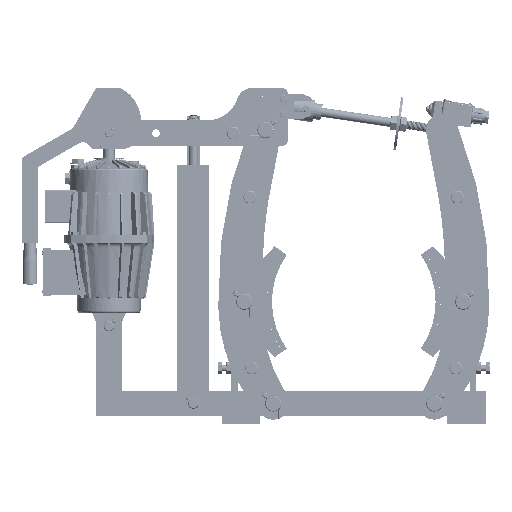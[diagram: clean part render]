
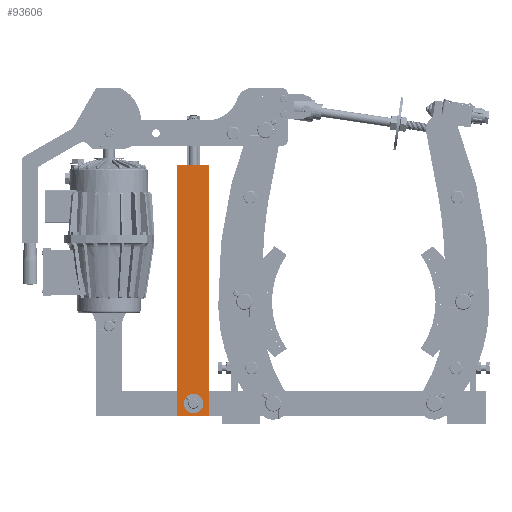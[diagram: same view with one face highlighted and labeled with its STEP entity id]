
A CAD part, left-side view. The second image highlights one B-rep face of the part: STEP entity #93606.
In plain terms, the highlighted planar face has unit normal (1, 0, 0).
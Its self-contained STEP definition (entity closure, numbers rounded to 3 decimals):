
#93555=DIRECTION('',(0.,0.,1.));
#93556=VECTOR('',#93555,390.);
#93557=CARTESIAN_POINT('',(-80.,429.,12.));
#93558=LINE('',#93557,#93556);
#93562=DIRECTION('',(0.,1.,0.));
#93563=VECTOR('',#93562,50.);
#93564=CARTESIAN_POINT('',(-80.,429.,402.));
#93565=LINE('',#93564,#93563);
#93569=DIRECTION('',(0.,0.,-1.));
#93570=VECTOR('',#93569,390.);
#93571=CARTESIAN_POINT('',(-80.,479.,402.));
#93572=LINE('',#93571,#93570);
#93576=DIRECTION('',(0.,-1.,0.));
#93577=VECTOR('',#93576,50.);
#93578=CARTESIAN_POINT('',(-80.,479.,12.));
#93579=LINE('',#93578,#93577);
#93583=CARTESIAN_POINT('',(-80.,429.,12.));
#93584=CARTESIAN_POINT('',(-80.,429.,402.));
#93585=VERTEX_POINT('',#93583);
#93586=VERTEX_POINT('',#93584);
#93587=CARTESIAN_POINT('',(-80.,479.,402.));
#93588=VERTEX_POINT('',#93587);
#93589=CARTESIAN_POINT('',(-80.,479.,12.));
#93590=VERTEX_POINT('',#93589);
#93591=CARTESIAN_POINT('',(-80.,454.,207.));
#93592=DIRECTION('',(1.,0.,0.));
#93593=DIRECTION('',(0.,1.,0.));
#93594=AXIS2_PLACEMENT_3D('',#93591,#93592,#93593);
#93595=PLANE('',#93594);
#93597=ORIENTED_EDGE('',*,*,#93596,.T.);
#93599=ORIENTED_EDGE('',*,*,#93598,.T.);
#93601=ORIENTED_EDGE('',*,*,#93600,.T.);
#93603=ORIENTED_EDGE('',*,*,#93602,.T.);
#93604=EDGE_LOOP('',(#93597,#93599,#93601,#93603));
#93605=FACE_OUTER_BOUND('',#93604,.F.);
#93606=ADVANCED_FACE('',(#93605),#93595,.T.);
#93596=EDGE_CURVE('',#93585,#93586,#93558,.T.);
#93598=EDGE_CURVE('',#93586,#93588,#93565,.T.);
#93600=EDGE_CURVE('',#93588,#93590,#93572,.T.);
#93602=EDGE_CURVE('',#93590,#93585,#93579,.T.);
